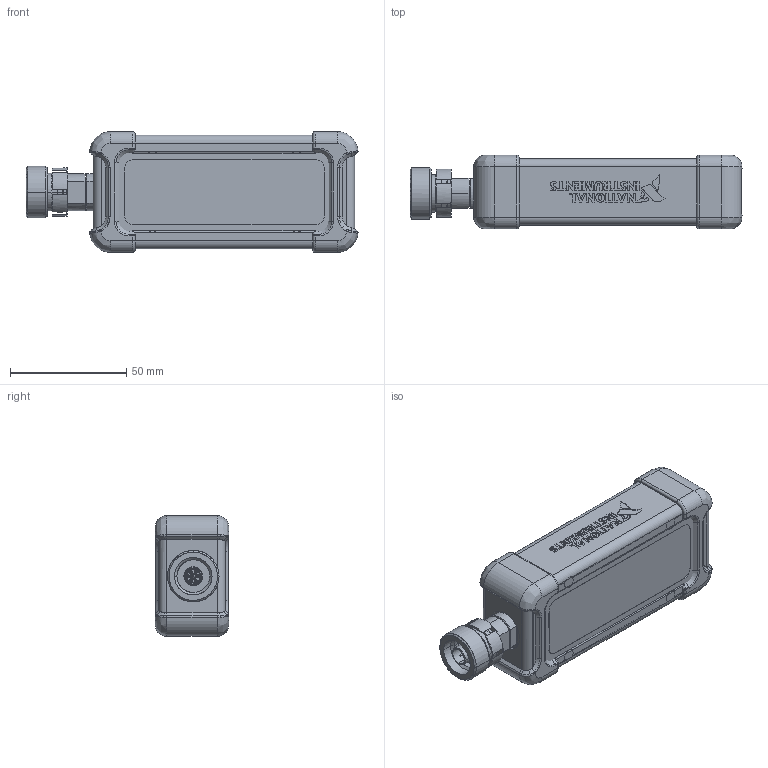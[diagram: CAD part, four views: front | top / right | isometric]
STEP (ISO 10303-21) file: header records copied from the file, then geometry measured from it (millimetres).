
FILE_DESCRIPTION((''),'2;1');
FILE_NAME('PM_WBEZEL_ANRITSU_USB-5681_ASM','2010-07-19T',('mshaw'),(''),'PRO/ENGINEER BY PARAMETRIC TECHNOLOGY CORPORATION, 2006510','PRO/ENGINEER BY PARAMETRIC TECHNOLOGY CORPORATION, 2006510','');
FILE_SCHEMA(('CONFIG_CONTROL_DESIGN'));
Length unit declared in the file: millimetre
Products named in the file (3): PM_ANRITSU_USB-5681; BEZEL_ANRITSU_USB-5681; PM_WBEZEL_ANRITSU_USB-5681_ASM
Assembly tree (2 placements, depth 2):
  PM_WBEZEL_ANRITSU_USB-5681_ASM
    PM_ANRITSU_USB-5681
    BEZEL_ANRITSU_USB-5681
Bounding box: 142.88 x 31.7 x 52 mm (x, y, z)
Surface area: 89491.3 mm2
Topology: 1 solids, 194 shells, 1699 faces, 6012 edges, 4265 vertices
Faces by surface type: plane 807, cylinder 513, extrusion 150, cone 87, bspline 76, torus 54, sphere 12
Entity records: 73550 total; most frequent: CARTESIAN_POINT 24496, ORIENTED_EDGE 9669, DIRECTION 9219, EDGE_CURVE 6005, VERTEX_POINT 4265, VECTOR 3295, LINE 3145, AXIS2_PLACEMENT_3D 2962
